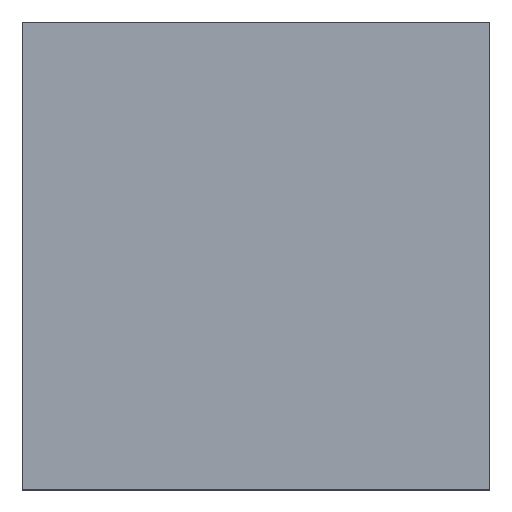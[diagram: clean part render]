
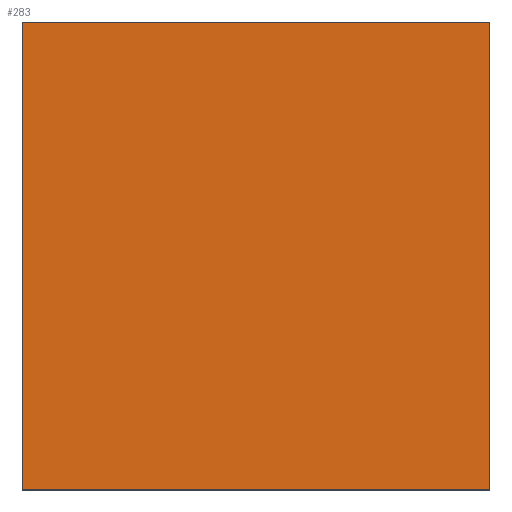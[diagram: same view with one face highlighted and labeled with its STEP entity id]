
A CAD part, top view. The second image highlights one B-rep face of the part: STEP entity #283.
In plain terms, the highlighted planar face has unit normal (0, 0, 1).
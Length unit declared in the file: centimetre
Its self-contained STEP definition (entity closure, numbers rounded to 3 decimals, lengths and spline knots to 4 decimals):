
#7 = LINE ( 'NONE', #372, #144 ) ;
#31 = LINE ( 'NONE', #278, #423 ) ;
#36 = FACE_OUTER_BOUND ( 'NONE', #433, .T. ) ;
#50 = ORIENTED_EDGE ( 'NONE', *, *, #434, .T. ) ;
#69 = VERTEX_POINT ( 'NONE', #325 ) ;
#94 = DIRECTION ( 'NONE',  ( 0., 1., 0. ) ) ;
#126 = PLANE ( 'NONE',  #484 ) ;
#132 = ORIENTED_EDGE ( 'NONE', *, *, #483, .T. ) ;
#144 = VECTOR ( 'NONE', #471, 100. ) ;
#154 = EDGE_CURVE ( 'NONE', #218, #69, #294, .T. ) ;
#158 = LINE ( 'NONE', #353, #450 ) ;
#179 = DIRECTION ( 'NONE',  ( 1., 0., 0. ) ) ;
#189 = CARTESIAN_POINT ( 'NONE',  ( 1000., 0., 1000. ) ) ;
#195 = DIRECTION ( 'NONE',  ( 0., -1., 0. ) ) ;
#203 = DIRECTION ( 'NONE',  ( 0., 0., 1. ) ) ;
#218 = VERTEX_POINT ( 'NONE', #189 ) ;
#223 = ORIENTED_EDGE ( 'NONE', *, *, #342, .T. ) ;
#278 = CARTESIAN_POINT ( 'NONE',  ( 0., 1000., 1000. ) ) ;
#283 = ADVANCED_FACE ( 'NONE', ( #36 ), #126, .T. ) ;
#293 = ORIENTED_EDGE ( 'NONE', *, *, #154, .T. ) ;
#294 = LINE ( 'NONE', #436, #376 ) ;
#303 = VERTEX_POINT ( 'NONE', #480 ) ;
#314 = CARTESIAN_POINT ( 'NONE',  ( 0., 0., 1000. ) ) ;
#325 = CARTESIAN_POINT ( 'NONE',  ( 1000., 1000., 1000. ) ) ;
#342 = EDGE_CURVE ( 'NONE', #382, #303, #31, .T. ) ;
#353 = CARTESIAN_POINT ( 'NONE',  ( 0., 1000., 1000. ) ) ;
#372 = CARTESIAN_POINT ( 'NONE',  ( 0., 0., 1000. ) ) ;
#376 = VECTOR ( 'NONE', #94, 100. ) ;
#382 = VERTEX_POINT ( 'NONE', #459 ) ;
#423 = VECTOR ( 'NONE', #195, 100. ) ;
#433 = EDGE_LOOP ( 'NONE', ( #223, #132, #293, #50 ) ) ;
#434 = EDGE_CURVE ( 'NONE', #69, #382, #158, .T. ) ;
#436 = CARTESIAN_POINT ( 'NONE',  ( 1000., 1000., 1000. ) ) ;
#450 = VECTOR ( 'NONE', #507, 100. ) ;
#459 = CARTESIAN_POINT ( 'NONE',  ( 0., 1000., 1000. ) ) ;
#471 = DIRECTION ( 'NONE',  ( 1., 0., 0. ) ) ;
#480 = CARTESIAN_POINT ( 'NONE',  ( 0., 0., 1000. ) ) ;
#483 = EDGE_CURVE ( 'NONE', #303, #218, #7, .T. ) ;
#484 = AXIS2_PLACEMENT_3D ( 'NONE', #314, #203, #179 ) ;
#507 = DIRECTION ( 'NONE',  ( -1., 0., 0. ) ) ;
